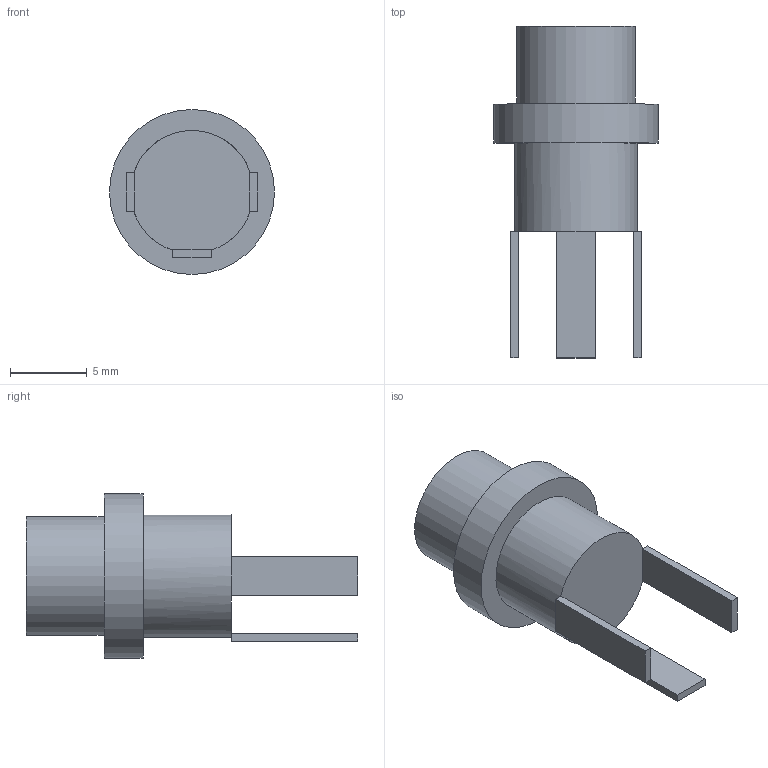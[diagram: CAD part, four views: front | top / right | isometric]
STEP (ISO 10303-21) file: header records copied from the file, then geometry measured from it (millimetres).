
FILE_DESCRIPTION (( 'STEP AP203' ), '1' );
FILE_NAME ('Size M CoAx.step', '2015-03-14T23:36:22', ( '' ), ( '' ), 'SwSTEP 2.0', 'SolidWorks 2013', '' );
FILE_SCHEMA (( 'CONFIG_CONTROL_DESIGN' ));
Length unit declared in the file: inch
Products named in the file (1): Size M CoAx
Bounding box: 10.74 x 21.62 x 10.74 mm (x, y, z)
Volume: 790.3 mm3; surface area: 690.9 mm2
Topology: 1 solids, 1 shells, 25 faces, 58 edges, 37 vertices
Faces by surface type: plane 22, cylinder 3
Full cylindrical faces by diameter (mm): 7.747 x1, 8.001 x1, 10.744 x1
Entity records: 749 total; most frequent: DIRECTION 116, CARTESIAN_POINT 114, ORIENTED_EDGE 106, EDGE_CURVE 53, LINE 42, VECTOR 42, AXIS2_PLACEMENT_3D 37, VERTEX_POINT 35
